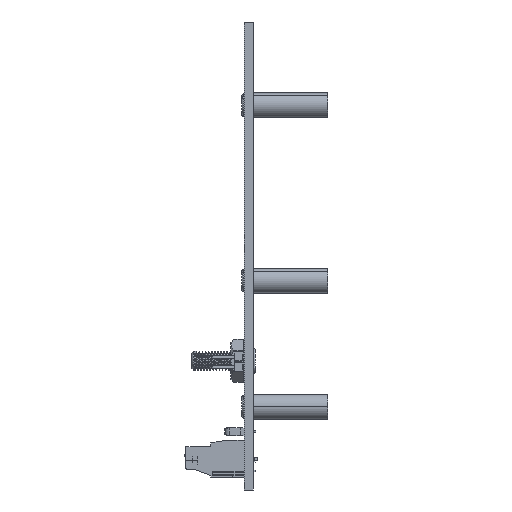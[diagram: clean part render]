
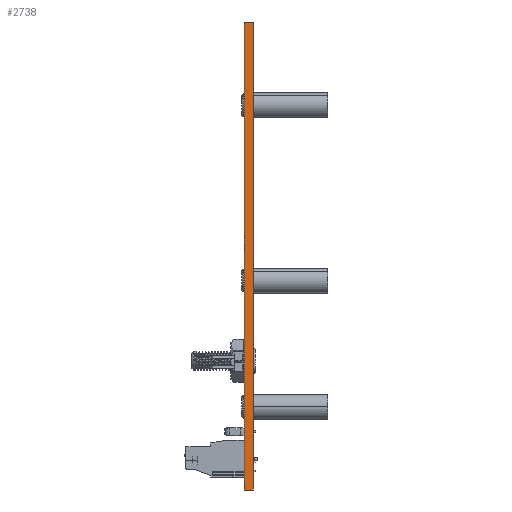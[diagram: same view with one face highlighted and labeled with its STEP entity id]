
A CAD part, left-side view. The second image highlights one B-rep face of the part: STEP entity #2738.
In plain terms, the highlighted planar face has unit normal (-1, 0, 0).
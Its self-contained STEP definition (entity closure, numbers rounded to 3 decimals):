
#2738 = ADVANCED_FACE ( 'NONE', ( #55879 ), #78371, .F. ) ;
#3316 = CARTESIAN_POINT ( 'NONE',  ( -107.505, 1.181, 60.071 ) ) ;
#4039 = EDGE_CURVE ( 'NONE', #52417, #61202, #51811, .T. ) ;
#15972 = DIRECTION ( 'NONE',  ( 0., 0., 1. ) ) ;
#17650 = CARTESIAN_POINT ( 'NONE',  ( -107.505, 1.181, 60.071 ) ) ;
#21325 = CARTESIAN_POINT ( 'NONE',  ( -107.505, 1.181, -60.071 ) ) ;
#29050 = LINE ( 'NONE', #17650, #87081 ) ;
#31787 = EDGE_CURVE ( 'NONE', #61202, #68570, #78318, .T. ) ;
#40806 = ORIENTED_EDGE ( 'NONE', *, *, #4039, .T. ) ;
#47944 = EDGE_CURVE ( 'NONE', #132292, #68570, #29050, .T. ) ;
#50947 = CARTESIAN_POINT ( 'NONE',  ( -107.505, -1.181, 60.071 ) ) ;
#51811 = LINE ( 'NONE', #111857, #82529 ) ;
#52417 = VERTEX_POINT ( 'NONE', #21325 ) ;
#55624 = DIRECTION ( 'NONE',  ( 1., 0., 0. ) ) ;
#55879 = FACE_OUTER_BOUND ( 'NONE', #61382, .T. ) ;
#61202 = VERTEX_POINT ( 'NONE', #140678 ) ;
#61382 = EDGE_LOOP ( 'NONE', ( #75788, #70600, #133757, #40806 ) ) ;
#64325 = DIRECTION ( 'NONE',  ( 0., -1., 0. ) ) ;
#68570 = VERTEX_POINT ( 'NONE', #99902 ) ;
#70600 = ORIENTED_EDGE ( 'NONE', *, *, #47944, .F. ) ;
#75548 = CARTESIAN_POINT ( 'NONE',  ( -107.505, 1.181, 60.071 ) ) ;
#75788 = ORIENTED_EDGE ( 'NONE', *, *, #31787, .T. ) ;
#78318 = LINE ( 'NONE', #50947, #109166 ) ;
#78371 = PLANE ( 'NONE',  #121169 ) ;
#82529 = VECTOR ( 'NONE', #135210, 1000. ) ;
#87081 = VECTOR ( 'NONE', #64325, 1000. ) ;
#93770 = VECTOR ( 'NONE', #15972, 1000. ) ;
#97449 = LINE ( 'NONE', #3316, #93770 ) ;
#99902 = CARTESIAN_POINT ( 'NONE',  ( -107.505, -1.181, 60.071 ) ) ;
#109166 = VECTOR ( 'NONE', #132049, 1000. ) ;
#111857 = CARTESIAN_POINT ( 'NONE',  ( -107.505, 1.181, -60.071 ) ) ;
#121097 = EDGE_CURVE ( 'NONE', #52417, #132292, #97449, .T. ) ;
#121169 = AXIS2_PLACEMENT_3D ( 'NONE', #125016, #55624, #136675 ) ;
#125016 = CARTESIAN_POINT ( 'NONE',  ( -107.505, 1.181, 60.071 ) ) ;
#132049 = DIRECTION ( 'NONE',  ( 0., 0., 1. ) ) ;
#132292 = VERTEX_POINT ( 'NONE', #75548 ) ;
#133757 = ORIENTED_EDGE ( 'NONE', *, *, #121097, .F. ) ;
#135210 = DIRECTION ( 'NONE',  ( 0., -1., 0. ) ) ;
#136675 = DIRECTION ( 'NONE',  ( 0., 0., -1. ) ) ;
#140678 = CARTESIAN_POINT ( 'NONE',  ( -107.505, -1.181, -60.071 ) ) ;
